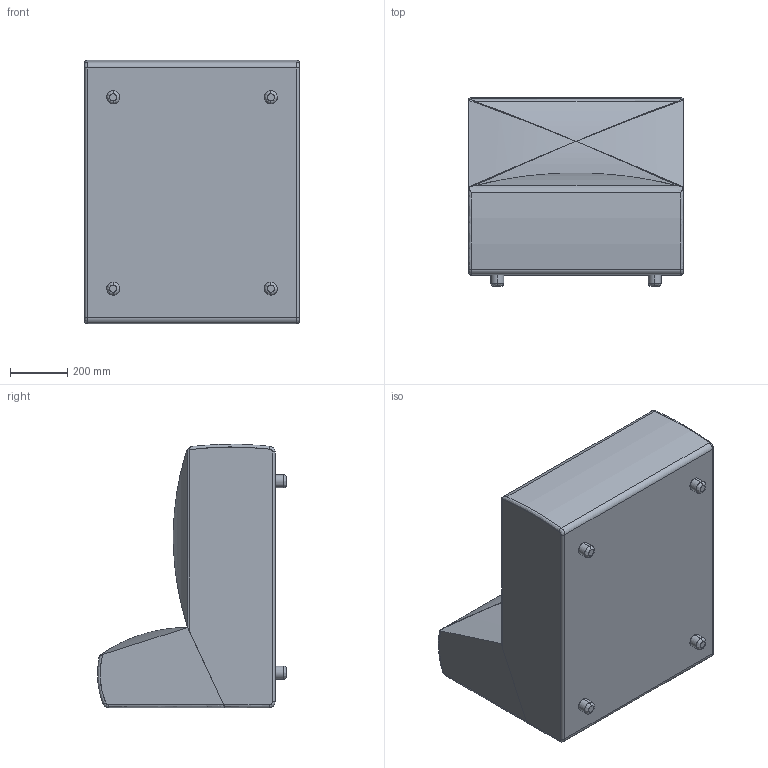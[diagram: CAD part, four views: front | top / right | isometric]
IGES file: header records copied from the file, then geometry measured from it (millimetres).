
Start section: SolidWorks IGES file using analytic representation for surfaces
Global section: file name: \\Logicserver\datos\01-VICCARBE\PRODUCTOS\53-SISTEMA\04-MODELADOS (PLANOS)\WEB\viccarbe-sistema-3D\Modulos\Modulo bajo grueso.IGS; native system: SolidWorks 2013; preprocessor: SolidWorks 2013; author: bdisenyo; date: 170120.111039; units: millimetre
Bounding box: 750 x 659.77 x 919.18 mm (x, y, z)
Surface area: 3372854.5 mm2 (no closed solid volume)
Topology: 0 solids, 0 shells, 71 faces, 931 edges, 923 vertices
Faces by surface type: bspline 42, revolution 29
